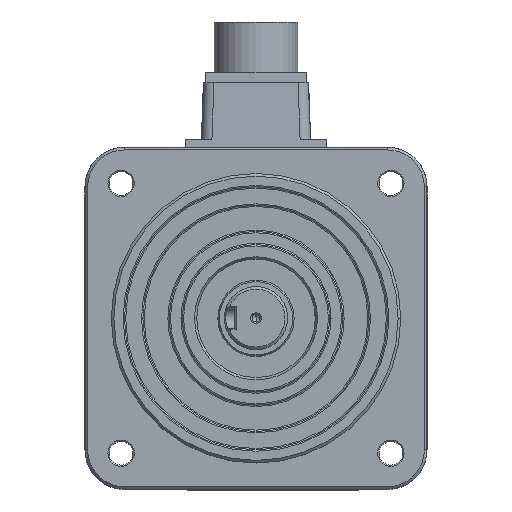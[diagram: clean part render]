
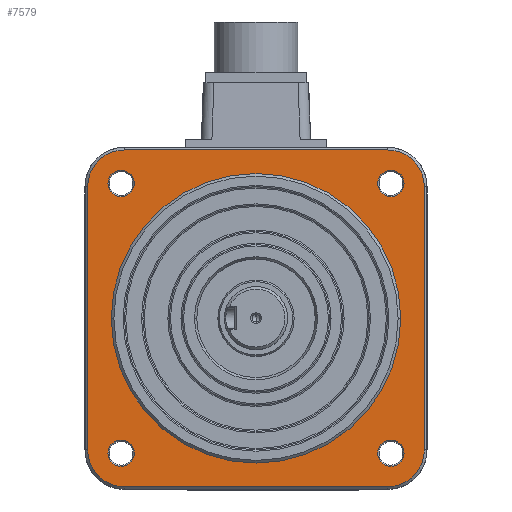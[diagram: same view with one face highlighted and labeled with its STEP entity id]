
A CAD part, top view. The second image highlights one B-rep face of the part: STEP entity #7579.
In plain terms, the highlighted planar face has unit normal (0, 0, 1).
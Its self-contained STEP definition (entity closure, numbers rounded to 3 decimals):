
#94=CARTESIAN_POINT('',(50.,50.,25.));
#95=DIRECTION('',(0.,0.,-1.));
#96=DIRECTION('',(0.,1.,0.));
#97=AXIS2_PLACEMENT_3D('',#94,#95,#96);
#99=CARTESIAN_POINT('',(50.,-50.,25.));
#100=DIRECTION('',(0.,0.,-1.));
#101=DIRECTION('',(1.,0.,0.));
#102=AXIS2_PLACEMENT_3D('',#99,#100,#101);
#104=CARTESIAN_POINT('',(-50.,-50.,25.));
#105=DIRECTION('',(0.,0.,-1.));
#106=DIRECTION('',(0.,-1.,0.));
#107=AXIS2_PLACEMENT_3D('',#104,#105,#106);
#109=CARTESIAN_POINT('',(-50.,50.,25.));
#110=DIRECTION('',(0.,0.,-1.));
#111=DIRECTION('',(-1.,0.,0.));
#112=AXIS2_PLACEMENT_3D('',#109,#110,#111);
#114=CARTESIAN_POINT('',(0.,0.,25.));
#115=DIRECTION('',(0.,0.,1.));
#116=DIRECTION('',(-1.,0.,0.));
#117=AXIS2_PLACEMENT_3D('',#114,#115,#116);
#119=CARTESIAN_POINT('',(0.,0.,25.));
#120=DIRECTION('',(0.,0.,1.));
#121=DIRECTION('',(1.,0.,0.));
#122=AXIS2_PLACEMENT_3D('',#119,#120,#121);
#124=CARTESIAN_POINT('',(-51.265,51.265,25.));
#125=DIRECTION('',(0.,0.,1.));
#126=DIRECTION('',(1.,0.,0.));
#127=AXIS2_PLACEMENT_3D('',#124,#125,#126);
#129=CARTESIAN_POINT('',(-51.265,51.265,25.));
#130=DIRECTION('',(0.,0.,1.));
#131=DIRECTION('',(-1.,0.,0.));
#132=AXIS2_PLACEMENT_3D('',#129,#130,#131);
#134=CARTESIAN_POINT('',(-51.265,-51.265,25.));
#135=DIRECTION('',(0.,0.,1.));
#136=DIRECTION('',(1.,0.,0.));
#137=AXIS2_PLACEMENT_3D('',#134,#135,#136);
#139=CARTESIAN_POINT('',(-51.265,-51.265,25.));
#140=DIRECTION('',(0.,0.,1.));
#141=DIRECTION('',(-1.,0.,0.));
#142=AXIS2_PLACEMENT_3D('',#139,#140,#141);
#144=CARTESIAN_POINT('',(51.265,-51.265,25.));
#145=DIRECTION('',(0.,0.,1.));
#146=DIRECTION('',(1.,0.,0.));
#147=AXIS2_PLACEMENT_3D('',#144,#145,#146);
#149=CARTESIAN_POINT('',(51.265,-51.265,25.));
#150=DIRECTION('',(0.,0.,1.));
#151=DIRECTION('',(-1.,0.,0.));
#152=AXIS2_PLACEMENT_3D('',#149,#150,#151);
#154=CARTESIAN_POINT('',(51.265,51.265,25.));
#155=DIRECTION('',(0.,0.,1.));
#156=DIRECTION('',(1.,0.,0.));
#157=AXIS2_PLACEMENT_3D('',#154,#155,#156);
#159=CARTESIAN_POINT('',(51.265,51.265,25.));
#160=DIRECTION('',(0.,0.,1.));
#161=DIRECTION('',(-1.,0.,0.));
#162=AXIS2_PLACEMENT_3D('',#159,#160,#161);
#346=DIRECTION('',(-1.,0.,0.));
#347=VECTOR('',#346,100.);
#348=CARTESIAN_POINT('',(50.,63.969,25.));
#349=LINE('',#348,#347);
#498=DIRECTION('',(0.,-1.,0.));
#499=VECTOR('',#498,100.);
#500=CARTESIAN_POINT('',(-63.969,50.,25.));
#501=LINE('',#500,#499);
#696=DIRECTION('',(1.,0.,0.));
#697=VECTOR('',#696,100.);
#698=CARTESIAN_POINT('',(-50.,-63.969,25.));
#699=LINE('',#698,#697);
#902=DIRECTION('',(0.,1.,0.));
#903=VECTOR('',#902,100.);
#904=CARTESIAN_POINT('',(63.969,-50.,25.));
#905=LINE('',#904,#903);
#5922=CARTESIAN_POINT('',(55.,0.,25.));
#5923=VERTEX_POINT('',#5922);
#5924=CARTESIAN_POINT('',(-55.,0.,25.));
#5925=VERTEX_POINT('',#5924);
#5926=CARTESIAN_POINT('',(50.,63.969,25.));
#5927=CARTESIAN_POINT('',(63.969,50.,25.));
#5928=VERTEX_POINT('',#5926);
#5929=VERTEX_POINT('',#5927);
#5930=CARTESIAN_POINT('',(63.969,-50.,25.));
#5931=CARTESIAN_POINT('',(50.,-63.969,25.));
#5932=VERTEX_POINT('',#5930);
#5933=VERTEX_POINT('',#5931);
#5934=CARTESIAN_POINT('',(-50.,-63.969,25.));
#5935=CARTESIAN_POINT('',(-63.969,-50.,25.));
#5936=VERTEX_POINT('',#5934);
#5937=VERTEX_POINT('',#5935);
#5938=CARTESIAN_POINT('',(-63.969,50.,25.));
#5939=CARTESIAN_POINT('',(-50.,63.969,25.));
#5940=VERTEX_POINT('',#5938);
#5941=VERTEX_POINT('',#5939);
#5942=CARTESIAN_POINT('',(-46.265,51.265,25.));
#5943=CARTESIAN_POINT('',(-56.265,51.265,25.));
#5944=VERTEX_POINT('',#5942);
#5945=VERTEX_POINT('',#5943);
#5946=CARTESIAN_POINT('',(-46.265,-51.265,25.));
#5947=CARTESIAN_POINT('',(-56.265,-51.265,25.));
#5948=VERTEX_POINT('',#5946);
#5949=VERTEX_POINT('',#5947);
#5950=CARTESIAN_POINT('',(56.265,-51.265,25.));
#5951=CARTESIAN_POINT('',(46.265,-51.265,25.));
#5952=VERTEX_POINT('',#5950);
#5953=VERTEX_POINT('',#5951);
#5954=CARTESIAN_POINT('',(56.265,51.265,25.));
#5955=CARTESIAN_POINT('',(46.265,51.265,25.));
#5956=VERTEX_POINT('',#5954);
#5957=VERTEX_POINT('',#5955);
#7528=CARTESIAN_POINT('',(0.,0.,25.));
#7529=DIRECTION('',(0.,0.,1.));
#7530=DIRECTION('',(1.,0.,0.));
#7531=AXIS2_PLACEMENT_3D('',#7528,#7529,#7530);
#7532=PLANE('',#7531);
#7534=ORIENTED_EDGE('',*,*,#7533,.T.);
#7536=ORIENTED_EDGE('',*,*,#7535,.F.);
#7538=ORIENTED_EDGE('',*,*,#7537,.T.);
#7540=ORIENTED_EDGE('',*,*,#7539,.F.);
#7542=ORIENTED_EDGE('',*,*,#7541,.T.);
#7544=ORIENTED_EDGE('',*,*,#7543,.F.);
#7546=ORIENTED_EDGE('',*,*,#7545,.T.);
#7548=ORIENTED_EDGE('',*,*,#7547,.F.);
#7549=EDGE_LOOP('',(#7534,#7536,#7538,#7540,#7542,#7544,#7546,#7548));
#7550=FACE_OUTER_BOUND('',#7549,.F.);
#7551=ORIENTED_EDGE('',*,*,#7521,.T.);
#7552=ORIENTED_EDGE('',*,*,#7510,.T.);
#7553=EDGE_LOOP('',(#7551,#7552));
#7554=FACE_BOUND('',#7553,.F.);
#7556=ORIENTED_EDGE('',*,*,#7555,.T.);
#7558=ORIENTED_EDGE('',*,*,#7557,.T.);
#7559=EDGE_LOOP('',(#7556,#7558));
#7560=FACE_BOUND('',#7559,.F.);
#7562=ORIENTED_EDGE('',*,*,#7561,.T.);
#7564=ORIENTED_EDGE('',*,*,#7563,.T.);
#7565=EDGE_LOOP('',(#7562,#7564));
#7566=FACE_BOUND('',#7565,.F.);
#7568=ORIENTED_EDGE('',*,*,#7567,.T.);
#7570=ORIENTED_EDGE('',*,*,#7569,.T.);
#7571=EDGE_LOOP('',(#7568,#7570));
#7572=FACE_BOUND('',#7571,.F.);
#7574=ORIENTED_EDGE('',*,*,#7573,.T.);
#7576=ORIENTED_EDGE('',*,*,#7575,.T.);
#7577=EDGE_LOOP('',(#7574,#7576));
#7578=FACE_BOUND('',#7577,.F.);
#98=CIRCLE('',#97,13.969);
#103=CIRCLE('',#102,13.969);
#108=CIRCLE('',#107,13.969);
#113=CIRCLE('',#112,13.969);
#118=CIRCLE('',#117,55.);
#123=CIRCLE('',#122,55.);
#128=CIRCLE('',#127,5.);
#133=CIRCLE('',#132,5.);
#138=CIRCLE('',#137,5.);
#143=CIRCLE('',#142,5.);
#148=CIRCLE('',#147,5.);
#153=CIRCLE('',#152,5.);
#158=CIRCLE('',#157,5.);
#163=CIRCLE('',#162,5.);
#7510=EDGE_CURVE('',#5923,#5925,#123,.T.);
#7521=EDGE_CURVE('',#5925,#5923,#118,.T.);
#7533=EDGE_CURVE('',#5928,#5929,#98,.T.);
#7535=EDGE_CURVE('',#5932,#5929,#905,.T.);
#7537=EDGE_CURVE('',#5932,#5933,#103,.T.);
#7539=EDGE_CURVE('',#5936,#5933,#699,.T.);
#7541=EDGE_CURVE('',#5936,#5937,#108,.T.);
#7543=EDGE_CURVE('',#5940,#5937,#501,.T.);
#7545=EDGE_CURVE('',#5940,#5941,#113,.T.);
#7547=EDGE_CURVE('',#5928,#5941,#349,.T.);
#7555=EDGE_CURVE('',#5944,#5945,#128,.T.);
#7557=EDGE_CURVE('',#5945,#5944,#133,.T.);
#7561=EDGE_CURVE('',#5948,#5949,#138,.T.);
#7563=EDGE_CURVE('',#5949,#5948,#143,.T.);
#7567=EDGE_CURVE('',#5952,#5953,#148,.T.);
#7569=EDGE_CURVE('',#5953,#5952,#153,.T.);
#7573=EDGE_CURVE('',#5956,#5957,#158,.T.);
#7575=EDGE_CURVE('',#5957,#5956,#163,.T.);
#7579=ADVANCED_FACE('',(#7550,#7554,#7560,#7566,#7572,#7578),#7532,.T.);
